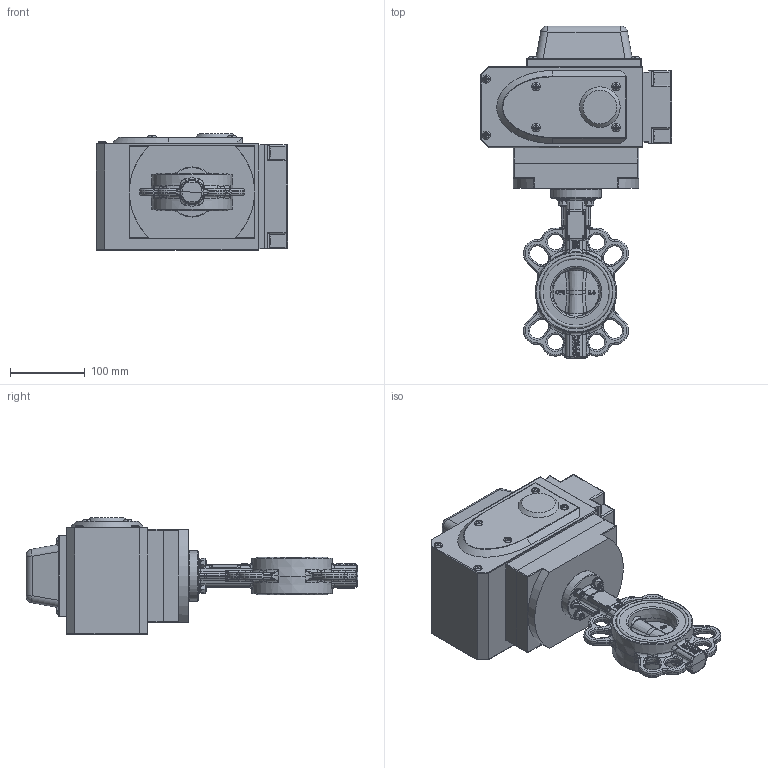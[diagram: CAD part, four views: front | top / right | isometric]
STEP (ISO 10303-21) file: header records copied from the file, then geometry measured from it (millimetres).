
FILE_DESCRIPTION(/* description */ (''),/* implementation_level */ '2;1');
FILE_NAME(/* name */ 'RSV81A220_380-DN65.stp',/* time_stamp */ '2024-08-20T14:22:40+07:00',/* author */ ('Eva'),/* organization */ (''),/* preprocessor_version */ 'ST-DEVELOPER v20',/* originating_system */ 'Autodesk Inventor 2025',/* authorisation */ '');
FILE_SCHEMA (('AUTOMOTIVE_DESIGN { 1 0 10303 214 3 1 1 }'));
Products named in the file (9): RSV81A220_380-DN65; 25; DN65·§°е; DN65Ин·§Чщ; ДЪБщЅЗіБН·ВЭ¶¤(ДЪБщЅЗіБН·ВЭ¶¤ 
M6X30-S); ЖЅµжИ¦ Cј¶(ЖЅµжИ¦C
ј¶ 6)-1; ±кЧјРНµЇ»ЙµжИ¦(±
кЧјРНµЇ»ЙµжИ¦ 6)-1; БщЅЗВЭДё Cј¶(
БщЅЗВЭДё Cј¶  M6-S)-1; RV ZHJDµз¶ЇµчЅЪµы·§·§Ме
Assembly tree (24 placements, depth 2):
  RSV81A220_380-DN65
    25
    DN65·§°е
    DN65Ин·§Чщ
    ДЪБщЅЗіБН·ВЭ¶¤(ДЪБщЅЗіБН·ВЭ¶¤ 
M6X30-S)  x5
    ЖЅµжИ¦ Cј¶(ЖЅµжИ¦C
ј¶ 6)-1  x5
    ±кЧјРНµЇ»ЙµжИ¦(±
кЧјРНµЇ»ЙµжИ¦ 6)-1  x5
    БщЅЗВЭДё Cј¶(
БщЅЗВЭДё Cј¶  M6-S)-1  x5
    RV ZHJDµз¶ЇµчЅЪµы·§·§Ме
Bounding box: 256 x 444.76 x 156 mm (x, y, z)
Volume: 6162419.9 mm3; surface area: 343764 mm2
Topology: 24 solids, 24 shells, 2405 faces, 6065 edges, 3695 vertices
Faces by surface type: cone 574, bspline 570, plane 560, cylinder 522, torus 147, sphere 32
Full cylindrical faces by diameter (mm): 4.917 x50, 6 x185, 6.6 x5, 11.037 x4, 11.059 x6, 11.34 x5, 11.745 x4, 12 x5, 12.6 x1, 12.8 x6, 18.6 x1, 67 x1, 74.2 x2, 96.9 x2
Entity records: 81963 total; most frequent: CARTESIAN_POINT 44483, ORIENTED_EDGE 8300, DIRECTION 6928, EDGE_CURVE 4150, AXIS2_PLACEMENT_3D 2803, VERTEX_POINT 2531, EDGE_LOOP 1751, FACE_OUTER_BOUND 1677
